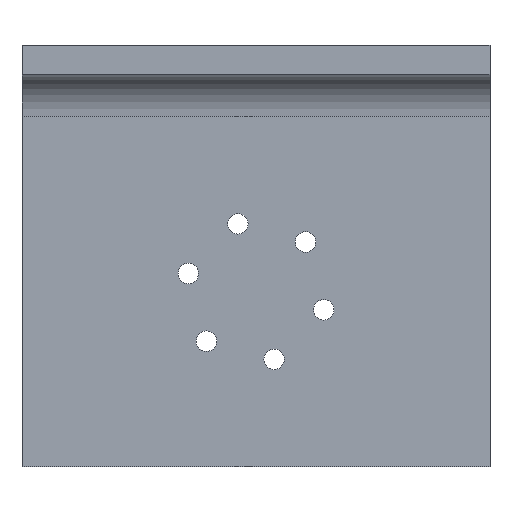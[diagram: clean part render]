
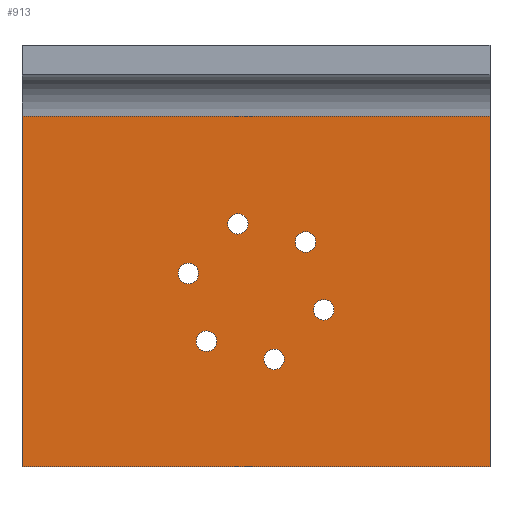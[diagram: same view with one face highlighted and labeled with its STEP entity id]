
A CAD part, front view. The second image highlights one B-rep face of the part: STEP entity #913.
In plain terms, the highlighted planar face has unit normal (0, -1, 0).
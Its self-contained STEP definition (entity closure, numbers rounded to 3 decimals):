
#2 = VECTOR ( 'NONE', #2250, 1000. ) ;
#17 = DIRECTION ( 'NONE',  ( 0., 0., -1. ) ) ;
#55 = CARTESIAN_POINT ( 'NONE',  ( 57.956, -25., -24.279 ) ) ;
#60 = EDGE_CURVE ( 'NONE', #930, #2224, #631, .T. ) ;
#73 = ORIENTED_EDGE ( 'NONE', *, *, #2132, .F. ) ;
#119 = DIRECTION ( 'NONE',  ( 0., -1., 0. ) ) ;
#135 = FACE_BOUND ( 'NONE', #2656, .T. ) ;
#180 = EDGE_CURVE ( 'NONE', #1962, #2531, #1521, .T. ) ;
#195 = VERTEX_POINT ( 'NONE', #2607 ) ;
#204 = DIRECTION ( 'NONE',  ( 0., -1., 0. ) ) ;
#209 = VERTEX_POINT ( 'NONE', #2196 ) ;
#277 = DIRECTION ( 'NONE',  ( 0., -1., 0. ) ) ;
#278 = DIRECTION ( 'NONE',  ( 0., -1., 0. ) ) ;
#286 = CARTESIAN_POINT ( 'NONE',  ( -200.275, -25., 150. ) ) ;
#357 = CARTESIAN_POINT ( 'NONE',  ( -42.426, -25., -42.426 ) ) ;
#363 = DIRECTION ( 'NONE',  ( 0., 0., -1. ) ) ;
#377 = VERTEX_POINT ( 'NONE', #55 ) ;
#396 = DIRECTION ( 'NONE',  ( 0., 0., -1. ) ) ;
#399 = LINE ( 'NONE', #2642, #1672 ) ;
#401 = VERTEX_POINT ( 'NONE', #1214 ) ;
#414 = CARTESIAN_POINT ( 'NONE',  ( -200.275, -25., 150. ) ) ;
#416 = AXIS2_PLACEMENT_3D ( 'NONE', #1938, #1279, #1739 ) ;
#432 = ORIENTED_EDGE ( 'NONE', *, *, #1057, .F. ) ;
#447 = VERTEX_POINT ( 'NONE', #985 ) ;
#459 = CARTESIAN_POINT ( 'NONE',  ( 42.426, -25., 33.676 ) ) ;
#470 = CIRCLE ( 'NONE', #2660, 8.75 ) ;
#486 = CARTESIAN_POINT ( 'NONE',  ( 200.275, -25., 150. ) ) ;
#542 = EDGE_LOOP ( 'NONE', ( #1914, #2782 ) ) ;
#553 = AXIS2_PLACEMENT_3D ( 'NONE', #2431, #277, #17 ) ;
#628 = ORIENTED_EDGE ( 'NONE', *, *, #2309, .F. ) ;
#631 = CIRCLE ( 'NONE', #872, 8.75 ) ;
#679 = CIRCLE ( 'NONE', #2404, 8.75 ) ;
#693 = CARTESIAN_POINT ( 'NONE',  ( 42.426, -25., 42.426 ) ) ;
#698 = ORIENTED_EDGE ( 'NONE', *, *, #1356, .F. ) ;
#707 = VERTEX_POINT ( 'NONE', #486 ) ;
#773 = AXIS2_PLACEMENT_3D ( 'NONE', #2120, #2731, #947 ) ;
#778 = CARTESIAN_POINT ( 'NONE',  ( -15.529, -25., 57.956 ) ) ;
#788 = AXIS2_PLACEMENT_3D ( 'NONE', #357, #1212, #2323 ) ;
#801 = EDGE_CURVE ( 'NONE', #209, #401, #1894, .T. ) ;
#830 = FACE_BOUND ( 'NONE', #1328, .T. ) ;
#831 = DIRECTION ( 'NONE',  ( 1., 0., 0. ) ) ;
#857 = LINE ( 'NONE', #414, #2754 ) ;
#872 = AXIS2_PLACEMENT_3D ( 'NONE', #778, #278, #363 ) ;
#876 = CARTESIAN_POINT ( 'NONE',  ( -42.426, -25., -42.426 ) ) ;
#891 = DIRECTION ( 'NONE',  ( 0., -1., 0. ) ) ;
#905 = CARTESIAN_POINT ( 'NONE',  ( 57.956, -25., -15.529 ) ) ;
#913 = ADVANCED_FACE ( 'NONE', ( #830, #2135, #1269, #2830, #1500, #135, #1916 ), #1930, .T. ) ;
#930 = VERTEX_POINT ( 'NONE', #1957 ) ;
#947 = DIRECTION ( 'NONE',  ( 0., 0., -1. ) ) ;
#962 = CIRCLE ( 'NONE', #2177, 8.75 ) ;
#968 = AXIS2_PLACEMENT_3D ( 'NONE', #1060, #204, #396 ) ;
#985 = CARTESIAN_POINT ( 'NONE',  ( -42.426, -25., -51.176 ) ) ;
#1022 = CARTESIAN_POINT ( 'NONE',  ( -57.956, -25., 6.779 ) ) ;
#1028 = DIRECTION ( 'NONE',  ( 0., 0., -1. ) ) ;
#1031 = DIRECTION ( 'NONE',  ( 0., -1., 0. ) ) ;
#1036 = DIRECTION ( 'NONE',  ( 0., 0., -1. ) ) ;
#1057 = EDGE_CURVE ( 'NONE', #2197, #2545, #962, .T. ) ;
#1060 = CARTESIAN_POINT ( 'NONE',  ( -57.956, -25., 15.529 ) ) ;
#1071 = CIRCLE ( 'NONE', #1301, 8.75 ) ;
#1088 = ORIENTED_EDGE ( 'NONE', *, *, #1219, .F. ) ;
#1113 = EDGE_LOOP ( 'NONE', ( #2440, #73 ) ) ;
#1149 = CIRCLE ( 'NONE', #553, 8.75 ) ;
#1187 = ORIENTED_EDGE ( 'NONE', *, *, #1986, .F. ) ;
#1203 = AXIS2_PLACEMENT_3D ( 'NONE', #905, #1790, #2469 ) ;
#1206 = CARTESIAN_POINT ( 'NONE',  ( 42.426, -25., 51.176 ) ) ;
#1212 = DIRECTION ( 'NONE',  ( 0., -1., 0. ) ) ;
#1214 = CARTESIAN_POINT ( 'NONE',  ( 15.529, -25., -66.706 ) ) ;
#1219 = EDGE_CURVE ( 'NONE', #401, #209, #679, .T. ) ;
#1229 = ORIENTED_EDGE ( 'NONE', *, *, #60, .F. ) ;
#1269 = FACE_BOUND ( 'NONE', #1570, .T. ) ;
#1279 = DIRECTION ( 'NONE',  ( 0., -1., 0. ) ) ;
#1301 = AXIS2_PLACEMENT_3D ( 'NONE', #876, #2618, #2403 ) ;
#1328 = EDGE_LOOP ( 'NONE', ( #1820, #432 ) ) ;
#1356 = EDGE_CURVE ( 'NONE', #2224, #930, #470, .T. ) ;
#1418 = CARTESIAN_POINT ( 'NONE',  ( 15.529, -25., -57.956 ) ) ;
#1446 = ORIENTED_EDGE ( 'NONE', *, *, #801, .F. ) ;
#1452 = CARTESIAN_POINT ( 'NONE',  ( -57.956, -25., 24.279 ) ) ;
#1454 = CARTESIAN_POINT ( 'NONE',  ( 0., -25., 0. ) ) ;
#1480 = CIRCLE ( 'NONE', #968, 8.75 ) ;
#1500 = FACE_BOUND ( 'NONE', #542, .T. ) ;
#1516 = AXIS2_PLACEMENT_3D ( 'NONE', #1454, #119, #2363 ) ;
#1521 = CIRCLE ( 'NONE', #2364, 8.75 ) ;
#1530 = DIRECTION ( 'NONE',  ( 0., -1., 0. ) ) ;
#1560 = EDGE_LOOP ( 'NONE', ( #628, #2711, #1187, #1652 ) ) ;
#1570 = EDGE_LOOP ( 'NONE', ( #1446, #1088 ) ) ;
#1585 = LINE ( 'NONE', #286, #2 ) ;
#1652 = ORIENTED_EDGE ( 'NONE', *, *, #2347, .F. ) ;
#1658 = EDGE_LOOP ( 'NONE', ( #2448, #1950 ) ) ;
#1672 = VECTOR ( 'NONE', #1719, 1000. ) ;
#1689 = VERTEX_POINT ( 'NONE', #2156 ) ;
#1719 = DIRECTION ( 'NONE',  ( -1., 0., 0. ) ) ;
#1739 = DIRECTION ( 'NONE',  ( 0., 0., -1. ) ) ;
#1785 = DIRECTION ( 'NONE',  ( 0., 0., -1. ) ) ;
#1790 = DIRECTION ( 'NONE',  ( 0., -1., 0. ) ) ;
#1796 = CARTESIAN_POINT ( 'NONE',  ( -200.275, -25., 150. ) ) ;
#1820 = ORIENTED_EDGE ( 'NONE', *, *, #2723, .F. ) ;
#1832 = DIRECTION ( 'NONE',  ( 0., -1., 0. ) ) ;
#1851 = VERTEX_POINT ( 'NONE', #1947 ) ;
#1866 = DIRECTION ( 'NONE',  ( 0., 0., -1. ) ) ;
#1892 = CARTESIAN_POINT ( 'NONE',  ( -15.529, -25., 57.956 ) ) ;
#1894 = CIRCLE ( 'NONE', #773, 8.75 ) ;
#1914 = ORIENTED_EDGE ( 'NONE', *, *, #2709, .F. ) ;
#1916 = FACE_OUTER_BOUND ( 'NONE', #1560, .T. ) ;
#1930 = PLANE ( 'NONE',  #1516 ) ;
#1931 = CARTESIAN_POINT ( 'NONE',  ( 200.275, -25., 150. ) ) ;
#1938 = CARTESIAN_POINT ( 'NONE',  ( 42.426, -25., 42.426 ) ) ;
#1947 = CARTESIAN_POINT ( 'NONE',  ( -200.275, -25., -150. ) ) ;
#1950 = ORIENTED_EDGE ( 'NONE', *, *, #2809, .F. ) ;
#1951 = DIRECTION ( 'NONE',  ( 0., 0., -1. ) ) ;
#1957 = CARTESIAN_POINT ( 'NONE',  ( -15.529, -25., 49.206 ) ) ;
#1962 = VERTEX_POINT ( 'NONE', #459 ) ;
#1986 = EDGE_CURVE ( 'NONE', #1851, #2864, #1585, .T. ) ;
#2045 = CIRCLE ( 'NONE', #788, 8.75 ) ;
#2089 = EDGE_CURVE ( 'NONE', #2275, #377, #2278, .T. ) ;
#2120 = CARTESIAN_POINT ( 'NONE',  ( 15.529, -25., -57.956 ) ) ;
#2132 = EDGE_CURVE ( 'NONE', #447, #1689, #2045, .T. ) ;
#2135 = FACE_BOUND ( 'NONE', #1113, .T. ) ;
#2156 = CARTESIAN_POINT ( 'NONE',  ( -42.426, -25., -33.676 ) ) ;
#2176 = CARTESIAN_POINT ( 'NONE',  ( 57.956, -25., -6.779 ) ) ;
#2177 = AXIS2_PLACEMENT_3D ( 'NONE', #2682, #891, #1785 ) ;
#2196 = CARTESIAN_POINT ( 'NONE',  ( 15.529, -25., -49.206 ) ) ;
#2197 = VERTEX_POINT ( 'NONE', #1022 ) ;
#2224 = VERTEX_POINT ( 'NONE', #2308 ) ;
#2250 = DIRECTION ( 'NONE',  ( 0., 0., 1. ) ) ;
#2275 = VERTEX_POINT ( 'NONE', #2176 ) ;
#2278 = CIRCLE ( 'NONE', #1203, 8.75 ) ;
#2308 = CARTESIAN_POINT ( 'NONE',  ( -15.529, -25., 66.706 ) ) ;
#2309 = EDGE_CURVE ( 'NONE', #707, #195, #2860, .T. ) ;
#2313 = EDGE_CURVE ( 'NONE', #1689, #447, #1071, .T. ) ;
#2323 = DIRECTION ( 'NONE',  ( 0., 0., -1. ) ) ;
#2328 = EDGE_CURVE ( 'NONE', #2864, #707, #857, .T. ) ;
#2347 = EDGE_CURVE ( 'NONE', #195, #1851, #399, .T. ) ;
#2363 = DIRECTION ( 'NONE',  ( 0., 0., -1. ) ) ;
#2364 = AXIS2_PLACEMENT_3D ( 'NONE', #693, #1530, #1028 ) ;
#2403 = DIRECTION ( 'NONE',  ( 0., 0., -1. ) ) ;
#2404 = AXIS2_PLACEMENT_3D ( 'NONE', #1418, #1832, #1866 ) ;
#2431 = CARTESIAN_POINT ( 'NONE',  ( 57.956, -25., -15.529 ) ) ;
#2440 = ORIENTED_EDGE ( 'NONE', *, *, #2313, .F. ) ;
#2448 = ORIENTED_EDGE ( 'NONE', *, *, #2089, .F. ) ;
#2459 = CIRCLE ( 'NONE', #416, 8.75 ) ;
#2469 = DIRECTION ( 'NONE',  ( 0., 0., -1. ) ) ;
#2531 = VERTEX_POINT ( 'NONE', #1206 ) ;
#2545 = VERTEX_POINT ( 'NONE', #1452 ) ;
#2607 = CARTESIAN_POINT ( 'NONE',  ( 200.275, -25., -150. ) ) ;
#2610 = VECTOR ( 'NONE', #1036, 1000. ) ;
#2618 = DIRECTION ( 'NONE',  ( 0., -1., 0. ) ) ;
#2642 = CARTESIAN_POINT ( 'NONE',  ( -200.275, -25., -150. ) ) ;
#2656 = EDGE_LOOP ( 'NONE', ( #698, #1229 ) ) ;
#2660 = AXIS2_PLACEMENT_3D ( 'NONE', #1892, #1031, #1951 ) ;
#2682 = CARTESIAN_POINT ( 'NONE',  ( -57.956, -25., 15.529 ) ) ;
#2709 = EDGE_CURVE ( 'NONE', #2531, #1962, #2459, .T. ) ;
#2711 = ORIENTED_EDGE ( 'NONE', *, *, #2328, .F. ) ;
#2723 = EDGE_CURVE ( 'NONE', #2545, #2197, #1480, .T. ) ;
#2731 = DIRECTION ( 'NONE',  ( 0., -1., 0. ) ) ;
#2754 = VECTOR ( 'NONE', #831, 1000. ) ;
#2782 = ORIENTED_EDGE ( 'NONE', *, *, #180, .F. ) ;
#2809 = EDGE_CURVE ( 'NONE', #377, #2275, #1149, .T. ) ;
#2830 = FACE_BOUND ( 'NONE', #1658, .T. ) ;
#2860 = LINE ( 'NONE', #1931, #2610 ) ;
#2864 = VERTEX_POINT ( 'NONE', #1796 ) ;
